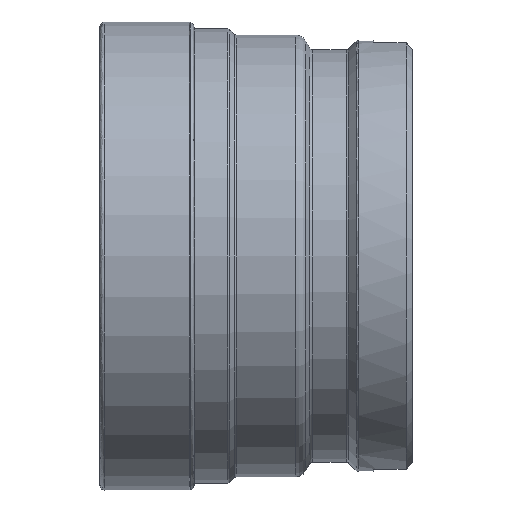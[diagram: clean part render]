
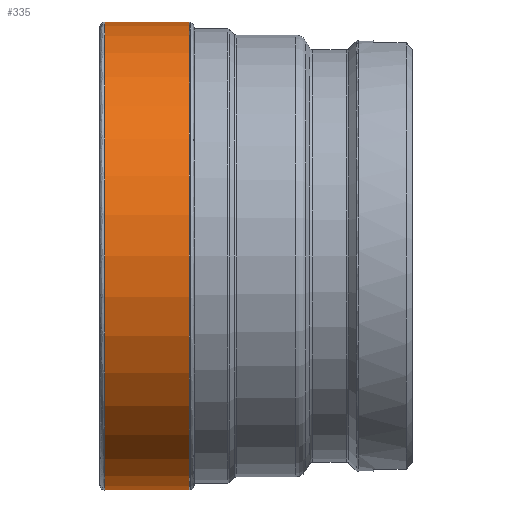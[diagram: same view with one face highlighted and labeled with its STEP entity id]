
A CAD part, front view. The second image highlights one B-rep face of the part: STEP entity #335.
In plain terms, the highlighted face is a revolution surface.
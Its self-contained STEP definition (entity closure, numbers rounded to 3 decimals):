
#50=SURFACE_OF_REVOLUTION('',#254,#71);
#71=AXIS1_PLACEMENT('',#2335,#1556);
#254=B_SPLINE_CURVE_WITH_KNOTS('',5,(#2329,#2330,#2331,#2332,#2333,#2334),
 .UNSPECIFIED.,.F.,.F.,(6,6),(0.,1.),.UNSPECIFIED.);
#335=ADVANCED_FACE('',(#468,#469),#50,.T.);
#468=FACE_BOUND('',#606,.T.);
#469=FACE_BOUND('',#607,.T.);
#606=EDGE_LOOP('',(#846));
#607=EDGE_LOOP('',(#847));
#846=ORIENTED_EDGE('',*,*,#1065,.F.);
#847=ORIENTED_EDGE('',*,*,#1064,.T.);
#944=VERTEX_POINT('',#2319);
#945=VERTEX_POINT('',#2328);
#1064=EDGE_CURVE('',#944,#944,#1130,.T.);
#1065=EDGE_CURVE('',#945,#945,#1131,.T.);
#1130=CIRCLE('',#1257,38.005);
#1131=CIRCLE('',#1258,38.025);
#1257=AXIS2_PLACEMENT_3D('',#2318,#1551,#1552);
#1258=AXIS2_PLACEMENT_3D('',#2327,#1554,#1555);
#1551=DIRECTION('',(-1.,0.,0.));
#1552=DIRECTION('',(0.,0.,1.));
#1554=DIRECTION('',(-1.,0.,0.));
#1555=DIRECTION('',(0.,0.,1.));
#1556=DIRECTION('',(-1.,0.,0.));
#2318=CARTESIAN_POINT('',(14.56,0.,0.));
#2319=CARTESIAN_POINT('',(14.56,0.,38.005));
#2327=CARTESIAN_POINT('',(0.804,0.,0.));
#2328=CARTESIAN_POINT('',(0.804,0.,38.025));
#2329=CARTESIAN_POINT('',(14.56,38.005,0.));
#2330=CARTESIAN_POINT('',(11.809,38.008,0.));
#2331=CARTESIAN_POINT('',(9.058,38.012,0.));
#2332=CARTESIAN_POINT('',(6.306,38.016,0.));
#2333=CARTESIAN_POINT('',(3.555,38.021,0.));
#2334=CARTESIAN_POINT('',(0.804,38.025,0.));
#2335=CARTESIAN_POINT('',(0.,0.,0.));
